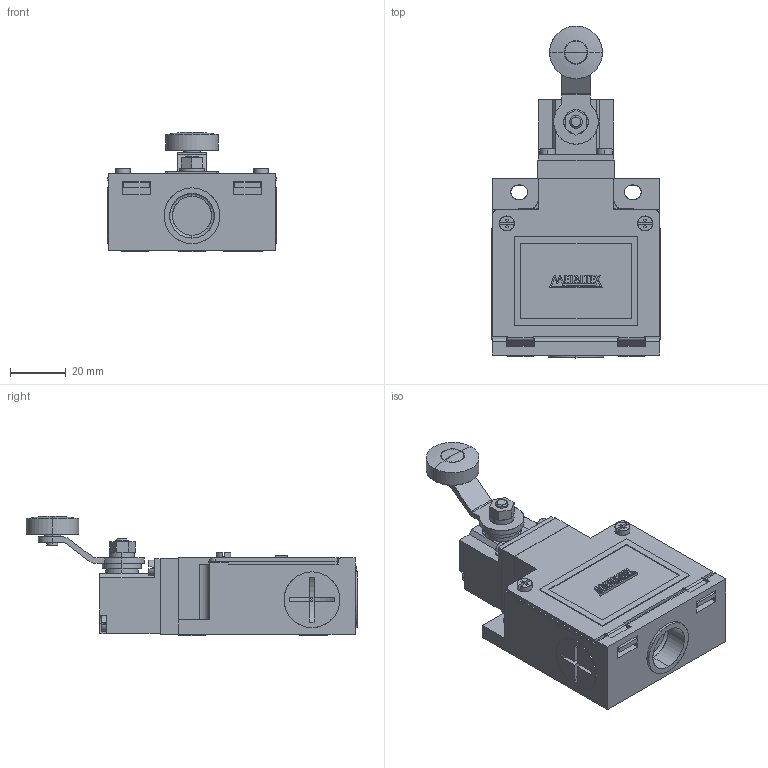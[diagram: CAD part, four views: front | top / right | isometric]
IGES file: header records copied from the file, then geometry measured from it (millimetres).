
Start section: SolidWorks IGES file using analytic representation for surfaces
Global section: file name: D:\X - Arquivos\PROEX\Empresas\P11 - METALTEX\01 - Produtos\IGES\Terceira remessa\TZE15.IGS; native system: SolidWorks 2012; preprocessor: SolidWorks 2012; author: Usuario; date: 180207.114134; units: millimetre
Bounding box: 61 x 119.1 x 43.05 mm (x, y, z)
Surface area: 22323.4 mm2 (no closed solid volume)
Topology: 0 solids, 0 shells, 455 faces, 4062 edges, 4061 vertices
Faces by surface type: bspline 358, revolution 97
